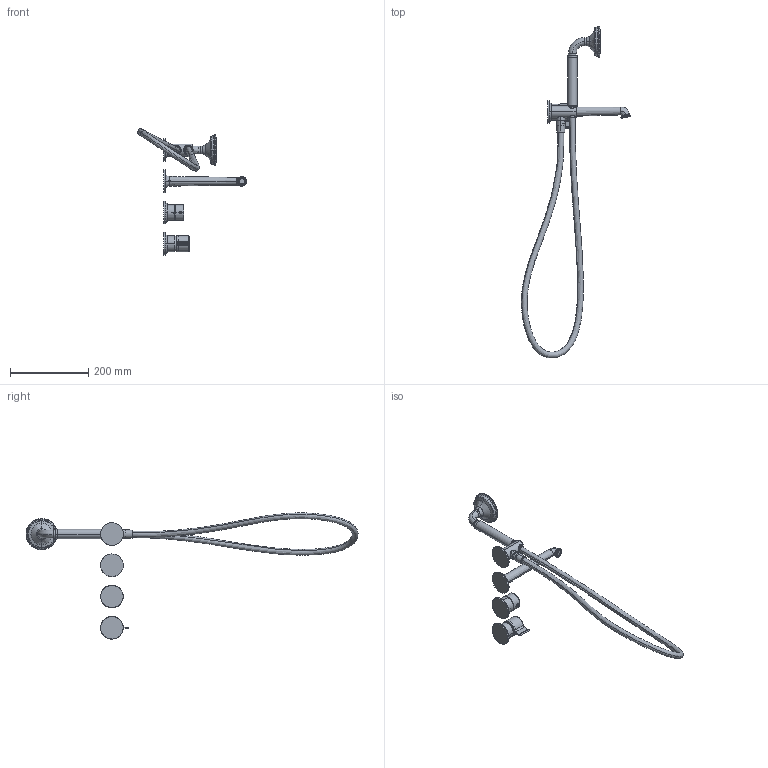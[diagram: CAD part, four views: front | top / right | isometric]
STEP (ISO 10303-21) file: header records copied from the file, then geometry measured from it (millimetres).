
FILE_DESCRIPTION(('STEP AP214'),'2;1');
FILE_NAME('DIS_3D_J721B+D220A.stp','2025-05-08T08:35:51',(''),(''),'2015.2.119','THINKDESIGN','');
FILE_SCHEMA(('AUTOMOTIVE_DESIGN'));
Length unit declared in the file: millimetre
Products named in the file (1): top
Bounding box: 279.38 x 850.15 x 323.2 mm (x, y, z)
Volume: 726243.2 mm3; surface area: 164605.5 mm2
Topology: 8 solids, 8 shells, 1240 faces, 3213 edges, 2159 vertices
Faces by surface type: bspline 802, cylinder 251, plane 187
Entity records: 103127 total; most frequent: CARTESIAN_POINT 54193, ORIENTED_EDGE 6392, DIRECTION 4407, EDGE_CURVE 3196, STYLED_ITEM 2488, PRESENTATION_STYLE_ASSIGNMENT 2481, SURFACE_STYLE_USAGE 2481, SURFACE_SIDE_STYLE 2481
